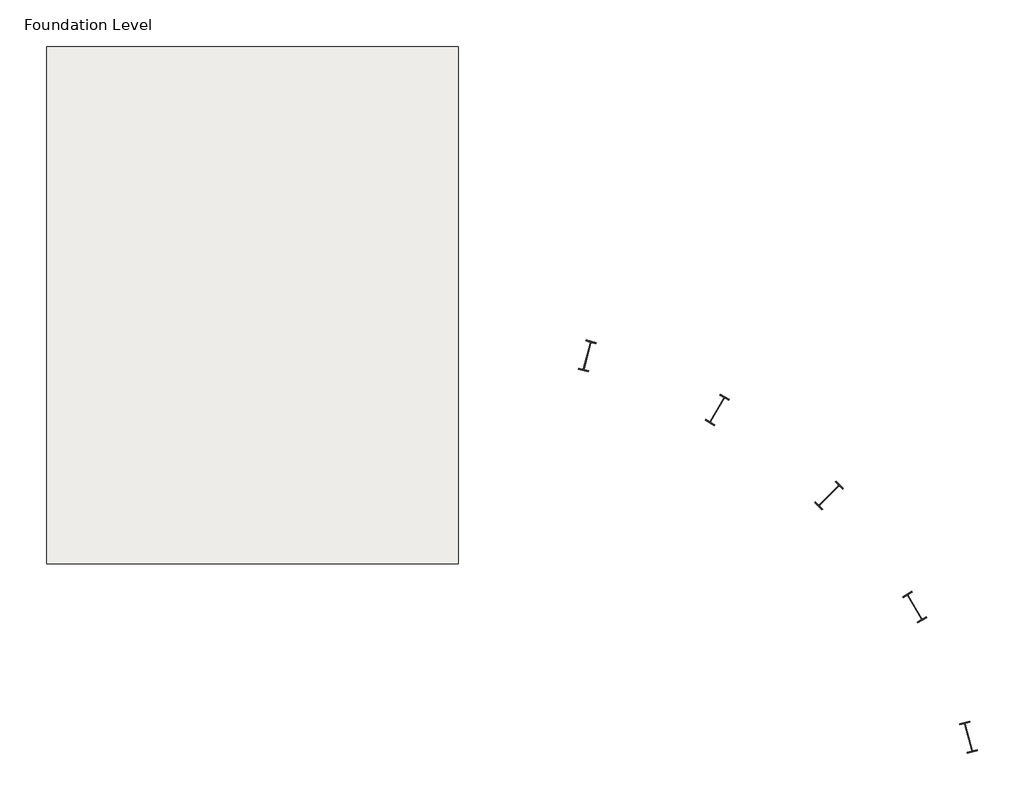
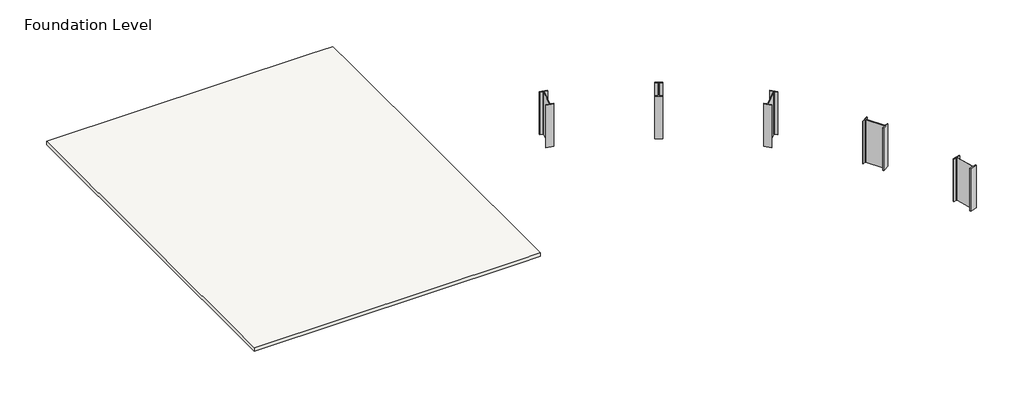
# One storey: 5 columns, 1 slab.
"""IFC4 building model written with IfcOpenShell, lengths in millimetres."""

from ifc_helpers import new_model, si_unit, origin, place, context, project, spatial, faceted_brep, transform, mapped, element, save
from components import w840x251_0592dfe8

model = new_model("IFC4")

# Units and contexts
model_context = context("Model", 3, world=origin())
ifc_project = project(units=[si_unit("LENGTHUNIT", "METRE", prefix="MILLI")], contexts=[model_context])

# Site, building, storey
site = spatial("IfcSite", under=ifc_project)
building = spatial("IfcBuilding", under=site)
storey = spatial("IfcBuildingStorey", under=building, Name="Foundation Level", Elevation=-1829.0)

# Columns
placement = place(None, origin())
w840x251_shape = w840x251_0592dfe8(model_context)
element("IfcColumn", 1, ObjectType="M_W-Wide Flange-Column : W840X251", at=placement, inside=storey, context=model_context, shape_type="MappedRepresentation", body=[
    mapped(w840x251_shape, transform((4211.8060608, -14958.4341491, 0.0), x_axis=(-0.9659258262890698, -0.25881904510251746, 0.0), y_axis=(0.25881904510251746, -0.9659258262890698, 0.0), z_axis=(0.0, 0.0, 1.0))),
])
element("IfcColumn", 2, ObjectType="M_W-Wide Flange-Column : W840X251", at=placement, inside=storey, context=model_context, shape_type="MappedRepresentation", body=[
    mapped(w840x251_shape, transform((2689.3236218, -11282.8363965, 0.0), x_axis=(-0.8660254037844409, -0.49999999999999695, 0.0), y_axis=(0.49999999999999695, -0.8660254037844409, 0.0), z_axis=(0.0, 0.0, 1.0))),
])
element("IfcColumn", 3, ObjectType="M_W-Wide Flange-Column : W840X251", at=placement, inside=storey, context=model_context, shape_type="MappedRepresentation", body=[
    mapped(w840x251_shape, transform((267.4038134, -8126.5290512, 0.0), x_axis=(0.7071067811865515, -0.7071067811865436, 0.0), y_axis=(0.7071067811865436, 0.7071067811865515, 0.0), z_axis=(0.0, 0.0, 1.0))),
])
element("IfcColumn", 4, ObjectType="M_W-Wide Flange-Column : W840X251", at=placement, inside=storey, context=model_context, shape_type="MappedRepresentation", body=[
    mapped(w840x251_shape, transform((-2888.9035319, -5704.6092428, 0.0), x_axis=(0.8660254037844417, -0.49999999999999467, 0.0), y_axis=(0.49999999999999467, 0.8660254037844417, 0.0), z_axis=(0.0, 0.0, 1.0))),
])
element("IfcColumn", 5, ObjectType="M_W-Wide Flange-Column : W840X251", at=placement, inside=storey, context=model_context, shape_type="MappedRepresentation", body=[
    mapped(w840x251_shape, transform((-6564.5012845, -4182.1268039, 0.0), x_axis=(0.9659258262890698, -0.25881904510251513, 0.0), y_axis=(0.25881904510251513, 0.9659258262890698, 0.0), z_axis=(0.0, 0.0, 1.0))),
])

# Slab
element("IfcSlab", 6, ObjectType="150mm Foundation Slab", at=placement, inside=storey, context=model_context, shape_type="Brep", body=[
    faceted_brep([(-10208.9035319, 4562.1636035, -1979.0), (-10208.9035319, 3362.1636035, -1979.0), (-10208.9035319, -2762.8363965, -1979.0), (-10208.9035319, -4562.8363965, -1979.0), (-10208.9035319, -8858.8363965, -1979.0), (-10208.9035319, -10058.8363965, -1979.0), (-11108.9035319, -10058.8363965, -1979.0), (-21844.300634, -10058.8363965, -1979.0), (-21844.300634, 4562.1636035, -1979.0), (-11108.9035319, 4562.1636035, -1979.0), (-10208.9035319, 4562.1636035, -1829.0), (-11108.9035319, 4562.1636035, -1829.0), (-21844.300634, 4562.1636035, -1829.0), (-21844.300634, -10058.8363965, -1829.0), (-11108.9035319, -10058.8363965, -1829.0), (-10208.9035319, -10058.8363965, -1829.0), (-10208.9035319, -8858.8363965, -1829.0), (-10208.9035319, -4562.8363965, -1829.0), (-10208.9035319, -2762.8363965, -1829.0), (-10208.9035319, 3362.1636035, -1829.0)], [[[0, 1, 2, 3, 4, 5, 6, 7, 8, 9]], [[10, 11, 12, 13, 14, 15, 16, 17, 18, 19]], [[5, 4, 3, 2, 1, 0, 10, 19, 18, 17, 16, 15]], [[7, 6, 5, 15, 14, 13]], [[8, 7, 13, 12]], [[0, 9, 8, 12, 11, 10]]]),
])

save(model, "model.ifc")
